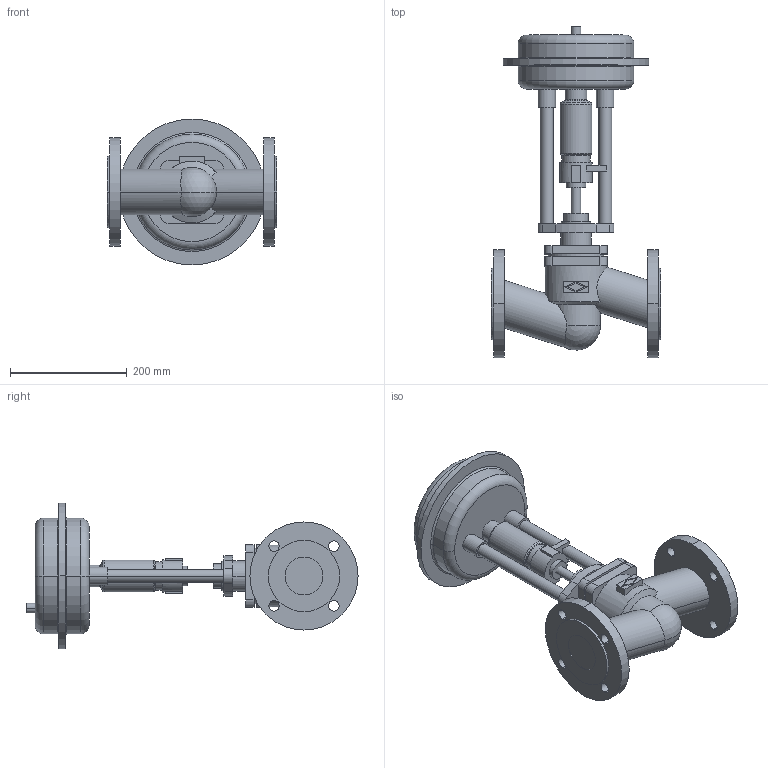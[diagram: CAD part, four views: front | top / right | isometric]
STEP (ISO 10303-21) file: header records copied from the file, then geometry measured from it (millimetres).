
FILE_DESCRIPTION(('OneSpaceDesigner STEP Export'),'2;1');
FILE_NAME('c000000361.stp','2005-02-14T14:00:04',(''),(''),'OneSpace Designer STEP processor (Jan. 2003) for AP203(Solid Model)','OneSpace Designer 12.01D 09-Jul-2004 (C) CoCreate Software GmbH','');
FILE_SCHEMA(('CONFIG_CONTROL_DESIGN'));
Length unit declared in the file: millimetre
Products named in the file (2): 1; 2
Bounding box: 290 x 568.5 x 250 mm (x, y, z)
Volume: 6887138 mm3; surface area: 478649.9 mm2
Topology: 2 solids, 2 shells, 181 faces, 433 edges, 281 vertices
Faces by surface type: cylinder 84, plane 73, torus 16, cone 6, sphere 2
Entity records: 5110 total; most frequent: CARTESIAN_POINT 1061, ORIENTED_EDGE 862, DIRECTION 727, EDGE_CURVE 431, VERTEX_POINT 281, AXIS2_PLACEMENT_3D 264, EDGE_LOOP 224, VECTOR 199
